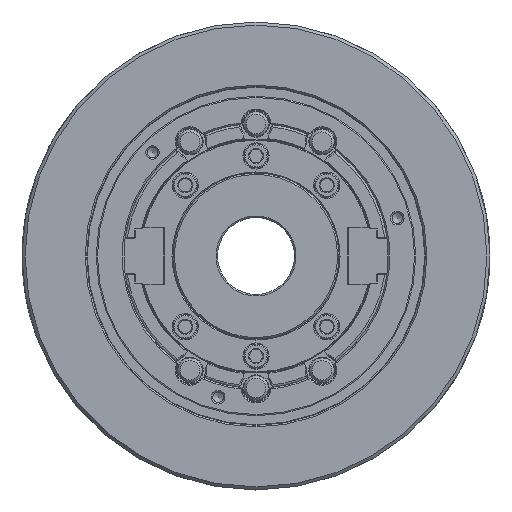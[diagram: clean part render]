
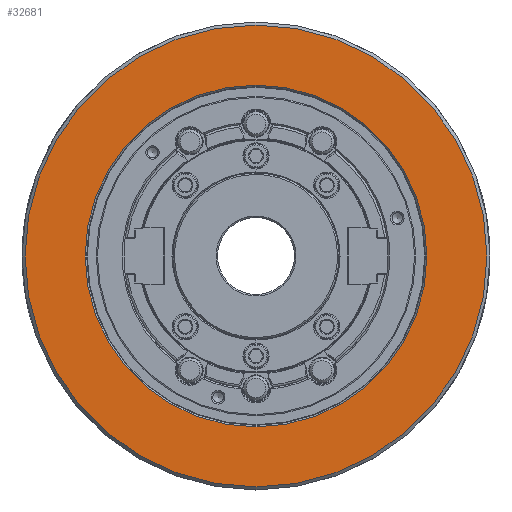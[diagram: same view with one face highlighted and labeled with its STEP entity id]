
A CAD part, left-side view. The second image highlights one B-rep face of the part: STEP entity #32681.
In plain terms, the highlighted planar face has unit normal (-1, 0, 0).
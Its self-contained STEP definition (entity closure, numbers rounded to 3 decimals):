
#5580 = EDGE_LOOP ( 'NONE', ( #14639 ) ) ;
#6234 = VERTEX_POINT ( 'NONE', #7840 ) ;
#7840 = CARTESIAN_POINT ( 'NONE',  ( -110., 0., 150. ) ) ;
#9640 = DIRECTION ( 'NONE',  ( 1., 0., 0. ) ) ;
#10755 = AXIS2_PLACEMENT_3D ( 'NONE', #18193, #9640, #42799 ) ;
#14639 = ORIENTED_EDGE ( 'NONE', *, *, #46707, .T. ) ;
#17699 = FACE_OUTER_BOUND ( 'NONE', #5580, .T. ) ;
#18193 = CARTESIAN_POINT ( 'NONE',  ( -110., 150., 0. ) ) ;
#26783 = AXIS2_PLACEMENT_3D ( 'NONE', #27246, #98968, #33661 ) ;
#27246 = CARTESIAN_POINT ( 'NONE',  ( -110., 0., 0. ) ) ;
#32681 = ADVANCED_FACE ( 'NONE', ( #92061, #17699 ), #67409, .F. ) ;
#33661 = DIRECTION ( 'NONE',  ( 0., 0., 1. ) ) ;
#36059 = CIRCLE ( 'NONE', #95869, 111. ) ;
#38138 = EDGE_CURVE ( 'NONE', #48485, #48485, #36059, .T. ) ;
#38368 = CARTESIAN_POINT ( 'NONE',  ( -110., 0., 111. ) ) ;
#41792 = DIRECTION ( 'NONE',  ( 0., 0., 1. ) ) ;
#42799 = DIRECTION ( 'NONE',  ( 0., 0., -1. ) ) ;
#46707 = EDGE_CURVE ( 'NONE', #6234, #6234, #66101, .T. ) ;
#48485 = VERTEX_POINT ( 'NONE', #38368 ) ;
#66101 = CIRCLE ( 'NONE', #26783, 150. ) ;
#67409 = PLANE ( 'NONE',  #10755 ) ;
#75459 = CARTESIAN_POINT ( 'NONE',  ( -110., 0., 0. ) ) ;
#82461 = DIRECTION ( 'NONE',  ( -1., 0., 0. ) ) ;
#87807 = EDGE_LOOP ( 'NONE', ( #102252 ) ) ;
#92061 = FACE_BOUND ( 'NONE', #87807, .T. ) ;
#95869 = AXIS2_PLACEMENT_3D ( 'NONE', #75459, #82461, #41792 ) ;
#98968 = DIRECTION ( 'NONE',  ( -1., 0., 0. ) ) ;
#102252 = ORIENTED_EDGE ( 'NONE', *, *, #38138, .F. ) ;
